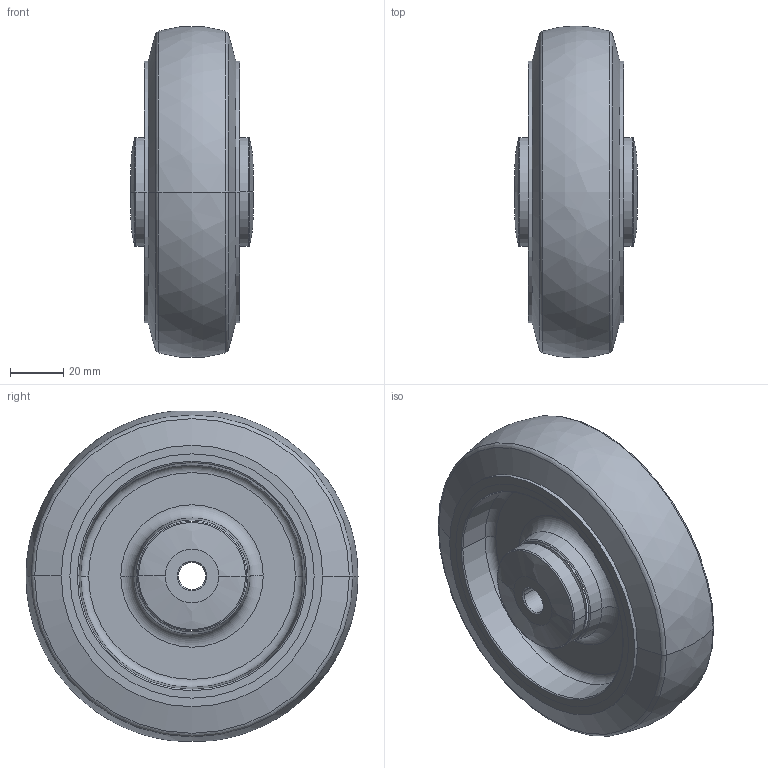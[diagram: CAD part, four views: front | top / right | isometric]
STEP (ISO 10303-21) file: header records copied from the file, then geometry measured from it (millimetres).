
FILE_DESCRIPTION((''),'2;1');
FILE_NAME('PRT0002','2025-12-24T08:58:05',('Administrator'),(''),'CREO PARAMETRIC BY PTC INC, 2022124','CREO PARAMETRIC BY PTC INC, 2022124','');
FILE_SCHEMA(('AUTOMOTIVE_DESIGN { 1 0 10303 214 1 1 1 1 }'));
Length unit declared in the file: millimetre
Products named in the file (1): PRT0002
Bounding box: 46 x 125 x 124.57 mm (x, y, z)
Surface area: 46179.6 mm2 (no closed solid volume)
Topology: 0 solids, 7 shells, 70 faces, 154 edges, 92 vertices
Faces by surface type: torus 28, cone 16, cylinder 12, plane 8, bspline 6
Entity records: 2735 total; most frequent: CARTESIAN_POINT 492, DIRECTION 431, ORIENTED_EDGE 280, AXIS2_PLACEMENT_3D 200, EDGE_CURVE 154, CIRCLE 126, VERTEX_POINT 92, EDGE_LOOP 78
